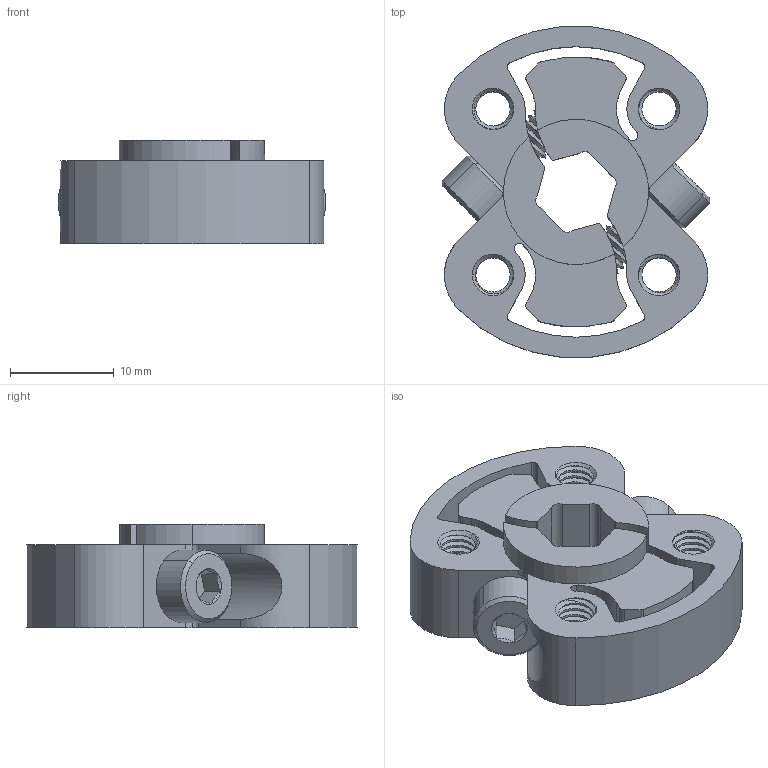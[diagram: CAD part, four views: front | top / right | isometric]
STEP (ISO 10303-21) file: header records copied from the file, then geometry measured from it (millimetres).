
FILE_DESCRIPTION (( 'STEP AP203' ), '1' );
FILE_NAME ('1309-0016-4008 assembly.STEP', '2020-03-17T18:44:37', ( '' ), ( '' ), 'SwSTEP 2.0', 'SolidWorks 2016', '' );
FILE_SCHEMA (( 'CONFIG_CONTROL_DESIGN' ));
Length unit declared in the file: millimetre
Products named in the file (3): 1309-0016-4008 assembly; 1309-0016-4008; 2800-0004-0014_90128A207
Assembly tree (3 placements, depth 2):
  1309-0016-4008 assembly
    1309-0016-4008
    2800-0004-0014_90128A207  x2
Bounding box: 25.79 x 31.88 x 10 mm (x, y, z)
Volume: 4204 mm3; surface area: 4963.8 mm2
Topology: 3 solids, 3 shells, 715 faces, 2080 edges, 1372 vertices
Faces by surface type: cylinder 587, cone 49, plane 49, bspline 30
Entity records: 53870 total; most frequent: CARTESIAN_POINT 40092, ORIENTED_EDGE 3570, DIRECTION 2151, EDGE_CURVE 1785, VERTEX_POINT 1181, AXIS2_PLACEMENT_3D 799, EDGE_LOOP 624, ADVANCED_FACE 607
